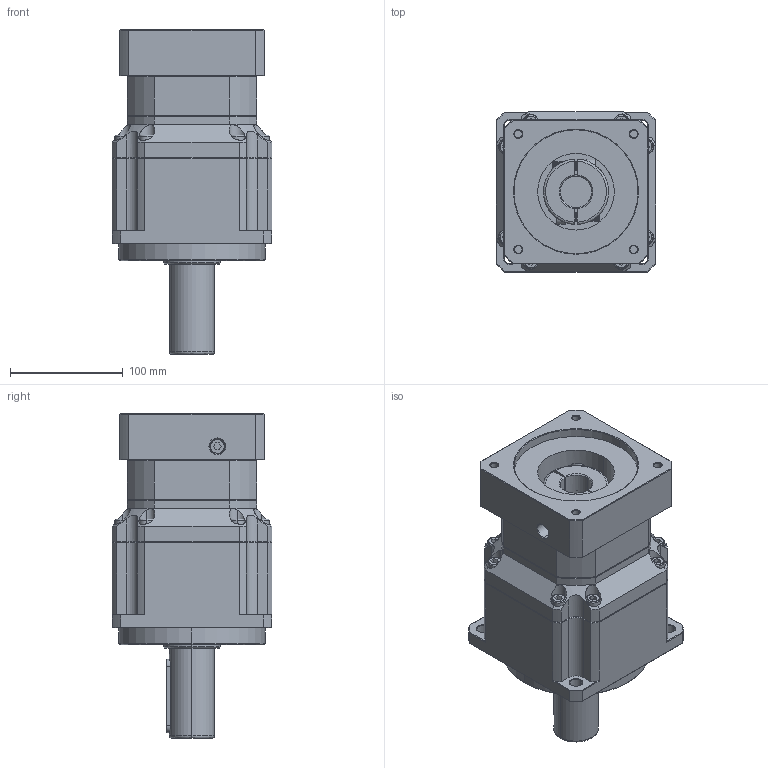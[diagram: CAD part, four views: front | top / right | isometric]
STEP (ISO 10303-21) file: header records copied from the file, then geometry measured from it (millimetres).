
FILE_DESCRIPTION (( 'STEP AP214' ), '1' );
FILE_NAME ('ZPB142-L2-P1-S2-28-110-145-M8.step', '2024-07-05T00:18:27', ( 'Windows 蚚誧' ), ( 'Organization' ), 'SwSTEP 2.0', 'SolidWorks 2016', '' );
FILE_SCHEMA (( 'AUTOMOTIVE_DESIGN' ));
Length unit declared in the file: millimetre
Products named in the file (1): ZPB142-L2-P1-S2-28-110-145-M8
Bounding box: 142 x 142 x 288 mm (x, y, z)
Surface area: 204121.1 mm2 (no closed solid volume)
Topology: 0 solids, 3 shells, 1770 faces, 4754 edges, 3084 vertices
Faces by surface type: plane 1020, bspline 397, cylinder 188, cone 165
Full cylindrical faces by diameter (mm): 14 x1
Entity records: 100904 total; most frequent: CARTESIAN_POINT 52206, ORIENTED_EDGE 9477, DIRECTION 6965, EDGE_CURVE 4753, VECTOR 3175, LINE 3175, VERTEX_POINT 3084, AXIS2_PLACEMENT_3D 1895
